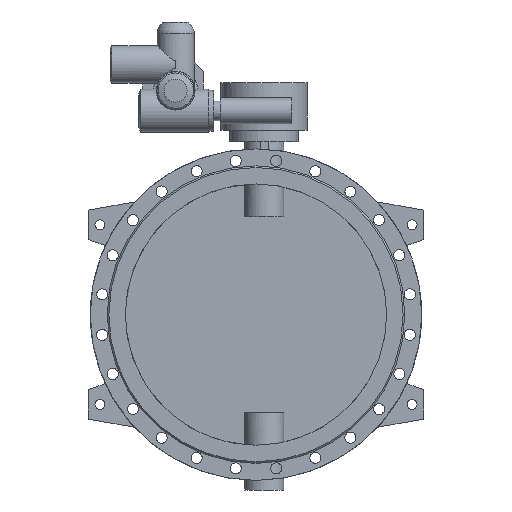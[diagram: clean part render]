
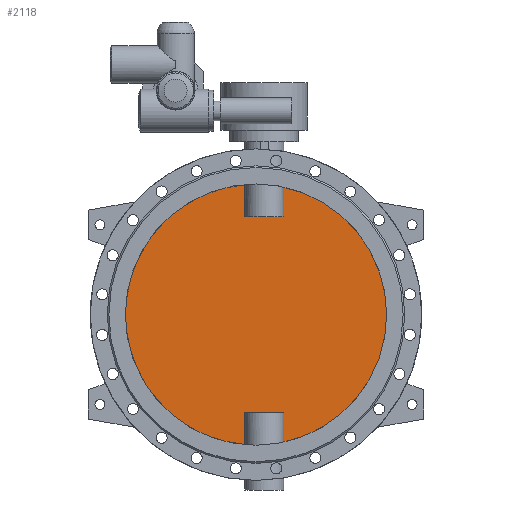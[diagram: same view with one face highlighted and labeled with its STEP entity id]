
A CAD part, front view. The second image highlights one B-rep face of the part: STEP entity #2118.
In plain terms, the highlighted planar face has unit normal (0, -1, 0).
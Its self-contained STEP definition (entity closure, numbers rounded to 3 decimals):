
#2118=ADVANCED_FACE('',(#4283),#4285,.F.);
#4283=FACE_BOUND('',#4284,.T.);
#4284=EDGE_LOOP('',(#5247,#5248,#5249,#5250,#5251,#5252,#5253,#5254));
#4285=PLANE('',#4286);
#4286=AXIS2_PLACEMENT_3D('',#4287,#4288,#4289);
#4287=CARTESIAN_POINT('',(0.,-5.,0.));
#4288=DIRECTION('',(0.,1.,0.));
#4289=DIRECTION('',(1.,0.,0.));
#5247=ORIENTED_EDGE('',*,*,#5730,.T.);
#5248=ORIENTED_EDGE('',*,*,#5735,.T.);
#5249=ORIENTED_EDGE('',*,*,#5736,.T.);
#5250=ORIENTED_EDGE('',*,*,#5737,.T.);
#5251=ORIENTED_EDGE('',*,*,#5732,.T.);
#5252=ORIENTED_EDGE('',*,*,#5738,.T.);
#5253=ORIENTED_EDGE('',*,*,#5739,.T.);
#5254=ORIENTED_EDGE('',*,*,#5740,.T.);
#5730=EDGE_CURVE('',#6579,#6580,#6581,.F.);
#5732=EDGE_CURVE('',#6584,#6582,#6585,.F.);
#5735=EDGE_CURVE('',#6580,#6589,#6590,.T.);
#5736=EDGE_CURVE('',#6589,#6591,#6592,.F.);
#5737=EDGE_CURVE('',#6591,#6584,#6593,.F.);
#5738=EDGE_CURVE('',#6582,#6594,#6595,.F.);
#5739=EDGE_CURVE('',#6594,#6596,#6597,.F.);
#5740=EDGE_CURVE('',#6596,#6579,#6598,.T.);
#6579=VERTEX_POINT('',#10531);
#6580=VERTEX_POINT('',#10532);
#6581=CIRCLE('',#10533,400.);
#6582=VERTEX_POINT('',#10537);
#6584=VERTEX_POINT('',#10644);
#6585=CIRCLE('',#10645,400.);
#6589=VERTEX_POINT('',#10761);
#6590=LINE('',#10762,#10763);
#6591=VERTEX_POINT('',#10765);
#6592=LINE('',#10766,#10767);
#6593=LINE('',#10769,#10770);
#6594=VERTEX_POINT('',#10772);
#6595=LINE('',#10773,#10774);
#6596=VERTEX_POINT('',#10776);
#6597=LINE('',#10777,#10778);
#6598=LINE('',#10780,#10781);
#10531=CARTESIAN_POINT('',(84.791,-5.,-390.91));
#10532=CARTESIAN_POINT('',(84.791,-5.,390.91));
#10533=AXIS2_PLACEMENT_3D('',#10534,#10535,#10536);
#10534=CARTESIAN_POINT('',(0.,-5.,0.));
#10535=DIRECTION('',(0.,1.,0.));
#10536=DIRECTION('',(0.212,0.,0.977));
#10537=CARTESIAN_POINT('',(-34.791,-5.,-398.484));
#10644=CARTESIAN_POINT('',(-34.791,-5.,398.484));
#10645=AXIS2_PLACEMENT_3D('',#10646,#10647,#10648);
#10646=CARTESIAN_POINT('',(0.,-5.,0.));
#10647=DIRECTION('',(0.,1.,0.));
#10648=DIRECTION('',(-0.087,0.,-0.996));
#10761=CARTESIAN_POINT('',(84.791,-5.,300.));
#10762=CARTESIAN_POINT('',(84.791,-5.,390.91));
#10763=VECTOR('',#10764,1.);
#10764=DIRECTION('',(0.,0.,-1.));
#10765=CARTESIAN_POINT('',(-34.791,-5.,300.));
#10766=CARTESIAN_POINT('',(-34.791,-5.,300.));
#10767=VECTOR('',#10768,1.);
#10768=DIRECTION('',(1.,0.,0.));
#10769=CARTESIAN_POINT('',(-34.791,-5.,398.484));
#10770=VECTOR('',#10771,1.);
#10771=DIRECTION('',(0.,0.,-1.));
#10772=CARTESIAN_POINT('',(-34.791,-5.,-300.));
#10773=CARTESIAN_POINT('',(-34.791,-5.,-300.));
#10774=VECTOR('',#10775,1.);
#10775=DIRECTION('',(0.,0.,-1.));
#10776=CARTESIAN_POINT('',(84.791,-5.,-300.));
#10777=CARTESIAN_POINT('',(84.791,-5.,-300.));
#10778=VECTOR('',#10779,1.);
#10779=DIRECTION('',(-1.,0.,0.));
#10780=CARTESIAN_POINT('',(84.791,-5.,-300.));
#10781=VECTOR('',#10782,1.);
#10782=DIRECTION('',(0.,0.,-1.));
